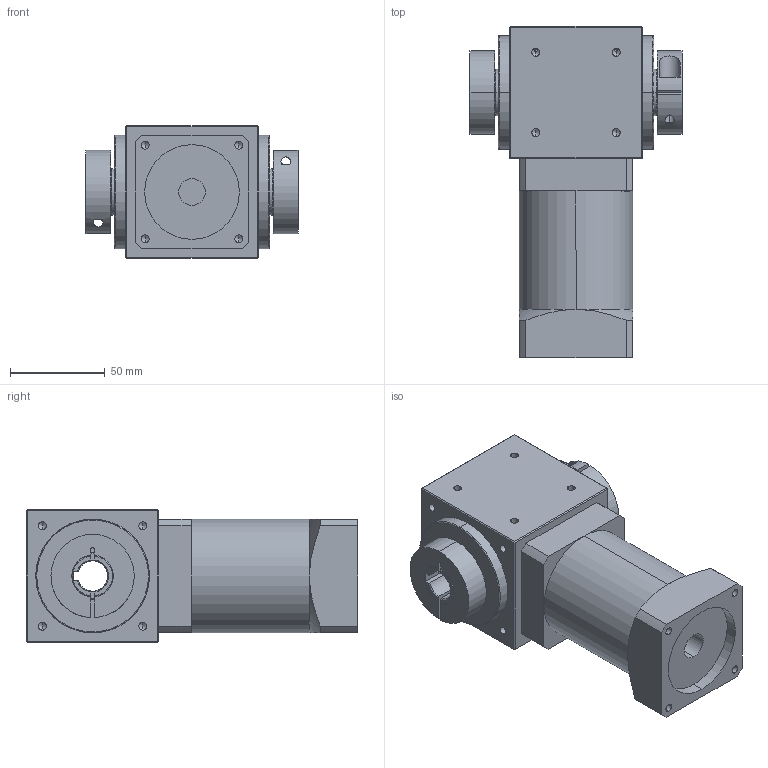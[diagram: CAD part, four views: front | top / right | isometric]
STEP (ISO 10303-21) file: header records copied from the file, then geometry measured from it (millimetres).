
FILE_DESCRIPTION (( 'STEP AP214' ), '1' );
FILE_NAME ('RXW070AS-L2-C-K--14-50-70-M5.STEP', '2020-11-21T08:43:29', ( '微软用户' ), ( '微软中国' ), 'SwSTEP 2.0', 'SolidWorks 2014', '' );
FILE_SCHEMA (( 'AUTOMOTIVE_DESIGN' ));
Length unit declared in the file: millimetre
Products named in the file (2): RXW070AS-L2-C-K--14-50-70-M5
Bounding box: 112 x 175 x 70 mm (x, y, z)
Volume: 698042.6 mm3; surface area: 76186.2 mm2
Topology: 2 solids, 2 shells, 257 faces, 661 edges, 382 vertices
Faces by surface type: cylinder 98, plane 78, cone 77, bspline 4
Entity records: 10286 total; most frequent: CARTESIAN_POINT 1794, DIRECTION 1302, ORIENTED_EDGE 1226, EDGE_CURVE 613, AXIS2_PLACEMENT_3D 502, VERTEX_POINT 382, EDGE_LOOP 299, LINE 298
